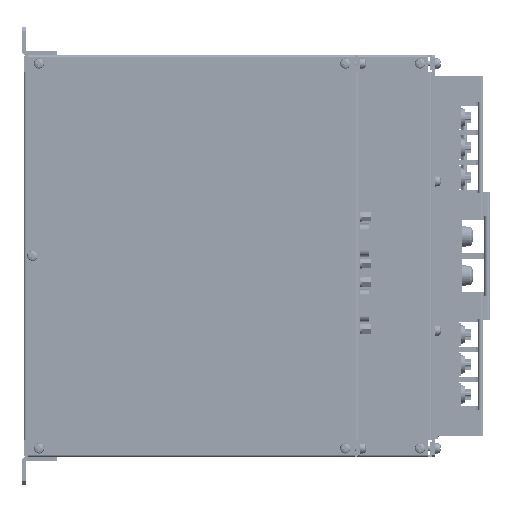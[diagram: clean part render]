
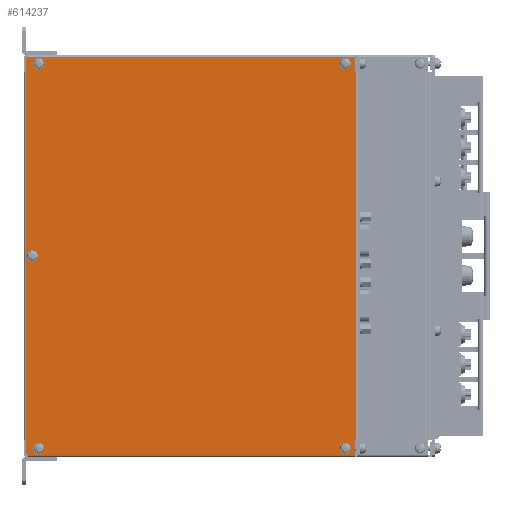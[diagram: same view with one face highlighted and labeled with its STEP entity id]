
A CAD part, left-side view. The second image highlights one B-rep face of the part: STEP entity #614237.
In plain terms, the highlighted planar face has unit normal (-1, 0, 0).
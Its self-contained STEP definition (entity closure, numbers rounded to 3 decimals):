
#614050=CARTESIAN_POINT('',(-95.,0.,0.));
#614051=DIRECTION('',(-1.,0.,0.));
#614052=DIRECTION('',(0.,-1.,0.));
#614053=AXIS2_PLACEMENT_3D('',#614050,#614051,#614052);
#614054=PLANE('',#614053);
#614055=CARTESIAN_POINT('',(-95.,-170.25,103.));
#614056=VERTEX_POINT('',#614055);
#614057=CARTESIAN_POINT('',(-95.,-173.75,103.));
#614058=VERTEX_POINT('',#614057);
#614059=CARTESIAN_POINT('',(-95.,-172.,103.));
#614060=DIRECTION('',(-1.,0.,0.));
#614061=DIRECTION('',(0.,-1.,0.));
#614062=AXIS2_PLACEMENT_3D('',#614059,#614060,#614061);
#614063=CIRCLE('',#614062,1.75);
#614064=EDGE_CURVE('',#614056,#614058,#614063,.T.);
#614065=ORIENTED_EDGE('',*,*,#614064,.F.);
#614066=CARTESIAN_POINT('',(-95.,-172.,103.));
#614067=DIRECTION('',(-1.,0.,0.));
#614068=DIRECTION('',(0.,-1.,0.));
#614069=AXIS2_PLACEMENT_3D('',#614066,#614067,#614068);
#614070=CIRCLE('',#614069,1.75);
#614071=EDGE_CURVE('',#614058,#614056,#614070,.T.);
#614072=ORIENTED_EDGE('',*,*,#614071,.F.);
#614073=EDGE_LOOP('',(#614065,#614072));
#614074=FACE_BOUND('',#614073,.T.);
#614075=CARTESIAN_POINT('',(-95.,-6.25,-103.));
#614076=VERTEX_POINT('',#614075);
#614077=CARTESIAN_POINT('',(-95.,-9.75,-103.));
#614078=VERTEX_POINT('',#614077);
#614079=CARTESIAN_POINT('',(-95.,-8.,-103.));
#614080=DIRECTION('',(-1.,0.,0.));
#614081=DIRECTION('',(0.,-1.,0.));
#614082=AXIS2_PLACEMENT_3D('',#614079,#614080,#614081);
#614083=CIRCLE('',#614082,1.75);
#614084=EDGE_CURVE('',#614076,#614078,#614083,.T.);
#614085=ORIENTED_EDGE('',*,*,#614084,.F.);
#614086=CARTESIAN_POINT('',(-95.,-8.,-103.));
#614087=DIRECTION('',(-1.,0.,0.));
#614088=DIRECTION('',(0.,-1.,0.));
#614089=AXIS2_PLACEMENT_3D('',#614086,#614087,#614088);
#614090=CIRCLE('',#614089,1.75);
#614091=EDGE_CURVE('',#614078,#614076,#614090,.T.);
#614092=ORIENTED_EDGE('',*,*,#614091,.F.);
#614093=EDGE_LOOP('',(#614085,#614092));
#614094=FACE_BOUND('',#614093,.T.);
#614095=CARTESIAN_POINT('',(-95.,-177.,-98.5));
#614096=VERTEX_POINT('',#614095);
#614097=CARTESIAN_POINT('',(-95.,-178.,-98.5));
#614098=VERTEX_POINT('',#614097);
#614099=CARTESIAN_POINT('',(-95.,-177.,-98.5));
#614100=DIRECTION('',(0.,-1.,0.));
#614101=VECTOR('',#614100,1.);
#614102=LINE('',#614099,#614101);
#614103=EDGE_CURVE('',#614096,#614098,#614102,.T.);
#614104=ORIENTED_EDGE('',*,*,#614103,.T.);
#614105=CARTESIAN_POINT('',(-95.,-178.,98.5));
#614106=VERTEX_POINT('',#614105);
#614107=CARTESIAN_POINT('',(-95.,-178.,-98.5));
#614108=DIRECTION('',(0.,0.,1.));
#614109=VECTOR('',#614108,197.);
#614110=LINE('',#614107,#614109);
#614111=EDGE_CURVE('',#614098,#614106,#614110,.T.);
#614112=ORIENTED_EDGE('',*,*,#614111,.T.);
#614113=CARTESIAN_POINT('',(-95.,-177.,98.5));
#614114=VERTEX_POINT('',#614113);
#614115=CARTESIAN_POINT('',(-95.,-178.,98.5));
#614116=DIRECTION('',(0.,1.,0.));
#614117=VECTOR('',#614116,1.);
#614118=LINE('',#614115,#614117);
#614119=EDGE_CURVE('',#614106,#614114,#614118,.T.);
#614120=ORIENTED_EDGE('',*,*,#614119,.T.);
#614121=CARTESIAN_POINT('',(-95.,-177.,106.5));
#614122=VERTEX_POINT('',#614121);
#614123=CARTESIAN_POINT('',(-95.,-177.,98.5));
#614124=DIRECTION('',(0.,0.,1.));
#614125=VECTOR('',#614124,8.);
#614126=LINE('',#614123,#614125);
#614127=EDGE_CURVE('',#614114,#614122,#614126,.T.);
#614128=ORIENTED_EDGE('',*,*,#614127,.T.);
#614129=CARTESIAN_POINT('',(-95.,-2.,106.5));
#614130=VERTEX_POINT('',#614129);
#614131=CARTESIAN_POINT('',(-95.,-177.,106.5));
#614132=DIRECTION('',(0.,1.,0.));
#614133=VECTOR('',#614132,175.);
#614134=LINE('',#614131,#614133);
#614135=EDGE_CURVE('',#614122,#614130,#614134,.T.);
#614136=ORIENTED_EDGE('',*,*,#614135,.T.);
#614137=CARTESIAN_POINT('',(-95.,-1.,105.5));
#614138=VERTEX_POINT('',#614137);
#614139=CARTESIAN_POINT('',(-95.,-2.,106.5));
#614140=DIRECTION('',(0.,0.707,-0.707));
#614141=VECTOR('',#614140,1.414);
#614142=LINE('',#614139,#614141);
#614143=EDGE_CURVE('',#614130,#614138,#614142,.T.);
#614144=ORIENTED_EDGE('',*,*,#614143,.T.);
#614145=CARTESIAN_POINT('',(-95.,-1.,-105.5));
#614146=VERTEX_POINT('',#614145);
#614147=CARTESIAN_POINT('',(-95.,-1.,105.5));
#614148=DIRECTION('',(0.,0.,-1.));
#614149=VECTOR('',#614148,211.);
#614150=LINE('',#614147,#614149);
#614151=EDGE_CURVE('',#614138,#614146,#614150,.T.);
#614152=ORIENTED_EDGE('',*,*,#614151,.T.);
#614153=CARTESIAN_POINT('',(-95.,-2.,-106.5));
#614154=VERTEX_POINT('',#614153);
#614155=CARTESIAN_POINT('',(-95.,-1.,-105.5));
#614156=DIRECTION('',(0.,-0.707,-0.707));
#614157=VECTOR('',#614156,1.414);
#614158=LINE('',#614155,#614157);
#614159=EDGE_CURVE('',#614146,#614154,#614158,.T.);
#614160=ORIENTED_EDGE('',*,*,#614159,.T.);
#614161=CARTESIAN_POINT('',(-95.,-177.,-106.5));
#614162=VERTEX_POINT('',#614161);
#614163=CARTESIAN_POINT('',(-95.,-2.,-106.5));
#614164=DIRECTION('',(0.,-1.,0.));
#614165=VECTOR('',#614164,175.);
#614166=LINE('',#614163,#614165);
#614167=EDGE_CURVE('',#614154,#614162,#614166,.T.);
#614168=ORIENTED_EDGE('',*,*,#614167,.T.);
#614169=CARTESIAN_POINT('',(-95.,-177.,-106.5));
#614170=DIRECTION('',(0.,0.,1.));
#614171=VECTOR('',#614170,8.);
#614172=LINE('',#614169,#614171);
#614173=EDGE_CURVE('',#614162,#614096,#614172,.T.);
#614174=ORIENTED_EDGE('',*,*,#614173,.T.);
#614175=EDGE_LOOP('',(#614104,#614112,#614120,#614128,#614136,#614144,#614152,#614160,#614168,#614174));
#614176=FACE_BOUND('',#614175,.T.);
#614177=CARTESIAN_POINT('',(-95.,-170.25,-103.));
#614178=VERTEX_POINT('',#614177);
#614179=CARTESIAN_POINT('',(-95.,-173.75,-103.));
#614180=VERTEX_POINT('',#614179);
#614181=CARTESIAN_POINT('',(-95.,-172.,-103.));
#614182=DIRECTION('',(-1.,0.,0.));
#614183=DIRECTION('',(0.,-1.,0.));
#614184=AXIS2_PLACEMENT_3D('',#614181,#614182,#614183);
#614185=CIRCLE('',#614184,1.75);
#614186=EDGE_CURVE('',#614178,#614180,#614185,.T.);
#614187=ORIENTED_EDGE('',*,*,#614186,.F.);
#614188=CARTESIAN_POINT('',(-95.,-172.,-103.));
#614189=DIRECTION('',(-1.,0.,0.));
#614190=DIRECTION('',(0.,-1.,0.));
#614191=AXIS2_PLACEMENT_3D('',#614188,#614189,#614190);
#614192=CIRCLE('',#614191,1.75);
#614193=EDGE_CURVE('',#614180,#614178,#614192,.T.);
#614194=ORIENTED_EDGE('',*,*,#614193,.F.);
#614195=EDGE_LOOP('',(#614187,#614194));
#614196=FACE_BOUND('',#614195,.T.);
#614197=CARTESIAN_POINT('',(-95.,-6.25,103.));
#614198=VERTEX_POINT('',#614197);
#614199=CARTESIAN_POINT('',(-95.,-9.75,103.));
#614200=VERTEX_POINT('',#614199);
#614201=CARTESIAN_POINT('',(-95.,-8.,103.));
#614202=DIRECTION('',(-1.,0.,0.));
#614203=DIRECTION('',(0.,-1.,0.));
#614204=AXIS2_PLACEMENT_3D('',#614201,#614202,#614203);
#614205=CIRCLE('',#614204,1.75);
#614206=EDGE_CURVE('',#614198,#614200,#614205,.T.);
#614207=ORIENTED_EDGE('',*,*,#614206,.F.);
#614208=CARTESIAN_POINT('',(-95.,-8.,103.));
#614209=DIRECTION('',(-1.,0.,0.));
#614210=DIRECTION('',(0.,-1.,0.));
#614211=AXIS2_PLACEMENT_3D('',#614208,#614209,#614210);
#614212=CIRCLE('',#614211,1.75);
#614213=EDGE_CURVE('',#614200,#614198,#614212,.T.);
#614214=ORIENTED_EDGE('',*,*,#614213,.F.);
#614215=EDGE_LOOP('',(#614207,#614214));
#614216=FACE_BOUND('',#614215,.T.);
#614217=CARTESIAN_POINT('',(-95.,-2.75,-0.));
#614218=VERTEX_POINT('',#614217);
#614219=CARTESIAN_POINT('',(-95.,-6.25,-0.));
#614220=VERTEX_POINT('',#614219);
#614221=CARTESIAN_POINT('',(-95.,-4.5,-0.));
#614222=DIRECTION('',(-1.,0.,0.));
#614223=DIRECTION('',(0.,-1.,0.));
#614224=AXIS2_PLACEMENT_3D('',#614221,#614222,#614223);
#614225=CIRCLE('',#614224,1.75);
#614226=EDGE_CURVE('',#614218,#614220,#614225,.T.);
#614227=ORIENTED_EDGE('',*,*,#614226,.F.);
#614228=CARTESIAN_POINT('',(-95.,-4.5,-0.));
#614229=DIRECTION('',(-1.,0.,0.));
#614230=DIRECTION('',(0.,-1.,0.));
#614231=AXIS2_PLACEMENT_3D('',#614228,#614229,#614230);
#614232=CIRCLE('',#614231,1.75);
#614233=EDGE_CURVE('',#614220,#614218,#614232,.T.);
#614234=ORIENTED_EDGE('',*,*,#614233,.F.);
#614235=EDGE_LOOP('',(#614227,#614234));
#614236=FACE_BOUND('',#614235,.T.);
#614237=ADVANCED_FACE('',(#614074,#614094,#614176,#614196,#614216,#614236),#614054,.T.);
